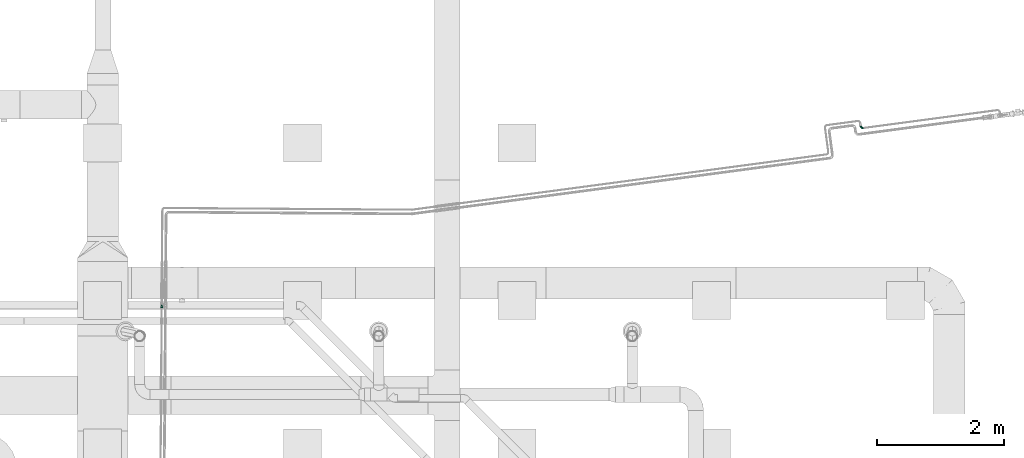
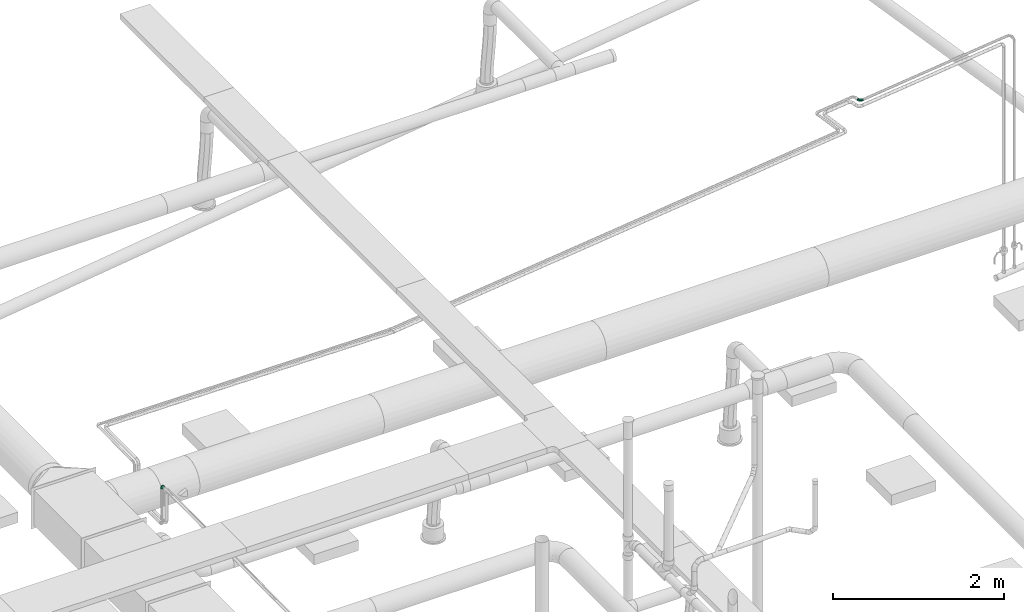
# One storey, part 199 of 374: 2 flow segments.
"""IFC2X3 building model written with IfcOpenShell, lengths in metres."""

import ifcopenshell
import ifcopenshell.guid

model = None  # the IFC model being written
_history = None  # IfcOwnerHistory: only IFC2X3 demands one
_inside = {}  # id of a spatial element -> (the spatial element, [elements in it])
_under = {}  # id of a project, library or spatial element -> (it, [spatial elements below it])
_declared = {}  # id of a project -> (the project, [libraries it declares])
_typed = {}  # id of a type object -> (the type object, [elements of that type])
_made_of = {}  # id of a material, layer set ... -> (it, [elements and type objects made of it])


def new_model(schema):
    """Start an empty IFC model of exactly this schema.

    Asked for "IFC4X3", IfcOpenShell would pick the latest addendum, in which some entities
    have other attributes; the version numbers below select the first issue.
    IFC2X3 requires an IfcOwnerHistory on every rooted entity: one is made here for all.
    """
    global model, _history
    if schema == "IFC4X3":
        model = ifcopenshell.file(schema_version=(4, 3, 0, 0))
    else:
        model = ifcopenshell.file(schema=schema)
    _inside.clear()
    _under.clear()
    _declared.clear()
    _typed.clear()
    _made_of.clear()
    _history = None
    if model.schema == "IFC2X3":
        org = make("IfcOrganization", Name="unknown")
        user = make(
            "IfcPersonAndOrganization",
            ThePerson=make("IfcPerson", FamilyName="unknown"),
            TheOrganization=org,
        )
        app = make(
            "IfcApplication",
            ApplicationDeveloper=org,
            Version="unknown",
            ApplicationFullName="unknown",
            ApplicationIdentifier="unknown",
        )
        _history = make(
            "IfcOwnerHistory",
            OwningUser=user,
            OwningApplication=app,
            ChangeAction="ADDED",
            CreationDate=0,
        )
    return model


def make(cls, **values):
    """One entity of the class cls with the attributes given. An attribute that is None is left unset."""
    return model.create_entity(
        cls, **{name: value for name, value in values.items() if value is not None}
    )


def rooted(cls, **values):
    """An entity with a GlobalId (a new one), such as an element, a storey or a relation."""
    return make(cls, GlobalId=ifcopenshell.guid.new(), OwnerHistory=_history, **values)


def si_unit(unit_type, name, prefix=None):
    """IfcSIUnit, for example si_unit("LENGTHUNIT", "METRE", prefix="MILLI")."""
    return make("IfcSIUnit", UnitType=unit_type, Prefix=prefix, Name=name)


def assignment(units):
    """IfcUnitAssignment: the units of a project."""
    return None if units is None else make("IfcUnitAssignment", Units=units)


def point(xyz):
    """IfcCartesianPoint."""
    return None if xyz is None else make("IfcCartesianPoint", Coordinates=xyz)


def direction(xyz):
    """IfcDirection."""
    return None if xyz is None else make("IfcDirection", DirectionRatios=xyz)


def frame(location, z_axis=None, x_axis=None):
    """IfcAxis2Placement3D, a coordinate frame: its origin and axes. An axis left out is left unset."""
    return make(
        "IfcAxis2Placement3D",
        Location=point(location),
        Axis=direction(z_axis),
        RefDirection=direction(x_axis),
    )


def origin():
    """The frame at (0, 0, 0) with its axes left unset."""
    return frame((0.0, 0.0, 0.0))


def place(relative_to, where):
    """IfcLocalPlacement: puts the frame where relative to a parent placement (None: the world)."""
    return make(
        "IfcLocalPlacement", PlacementRelTo=relative_to, RelativePlacement=where
    )


def context(
    kind, dimensions, precision=None, world=None, true_north=None, identifier=None
):
    """IfcGeometricRepresentationContext, for example the 3D "Model" context."""
    return make(
        "IfcGeometricRepresentationContext",
        ContextIdentifier=identifier,
        ContextType=kind,
        CoordinateSpaceDimension=dimensions,
        Precision=precision,
        WorldCoordinateSystem=world,
        TrueNorth=true_north,
    )


def subcontext(parent, identifier, kind, view, scale=None):
    """IfcGeometricRepresentationSubContext, for example "Body" below "Model"."""
    return make(
        "IfcGeometricRepresentationSubContext",
        ContextIdentifier=identifier,
        ContextType=kind,
        ParentContext=parent,
        TargetScale=scale,
        TargetView=view,
    )


def project(units=None, contexts=None):
    """IfcProject with its units and contexts."""
    return rooted(
        "IfcProject",
        Name="project",
        RepresentationContexts=contexts,
        UnitsInContext=assignment(units),
    )


def spatial(cls, under=None, at=None, **own):
    """A site, building, storey or space (cls), placed at a placement, below another one or the project."""
    s = rooted(cls, ObjectPlacement=at, **own)
    if under is not None:
        _under.setdefault(under.id(), (under, []))[1].append(s)
    return s


def faces_of(points, faces, orient=None, outer=None):
    """IfcFace entities. A face is a list of loops; a loop is a list of indices into points, from 0.

    orient and outer hold one flag for each loop. By default every Orientation is true, the
    first loop of a face is its IfcFaceOuterBound and the others are IfcFaceBound.
    """
    made = []
    for i, loops in enumerate(faces):
        bounds = []
        for j, loop in enumerate(loops):
            is_outer = j == 0 if outer is None else outer[i][j]
            bounds.append(
                make(
                    "IfcFaceOuterBound" if is_outer else "IfcFaceBound",
                    Bound=make("IfcPolyLoop", Polygon=[points[k] for k in loop]),
                    Orientation=True if orient is None else orient[i][j],
                )
            )
        made.append(make("IfcFace", Bounds=bounds))
    return made


def open_shell(faces, orient=None, outer=None):
    """The faces of one IfcOpenShell. surface_model builds it on its shared points."""
    return ("IfcOpenShell", faces, orient, outer)


def surface_model(cls, points, shells):
    """IfcFaceBasedSurfaceModel or IfcShellBasedSurfaceModel (cls): surfaces that need not close."""
    shared = [point(p) for p in points]
    made = [make(c, CfsFaces=faces_of(shared, fs, o, b)) for c, fs, o, b in shells]
    if cls == "IfcFaceBasedSurfaceModel":
        return make(cls, FbsmFaces=made)
    return make(cls, SbsmBoundary=made)


def shape(context_of_items, identifier, shape_type, items):
    """IfcShapeRepresentation: the items that make up one representation, for example the "Body"."""
    return make(
        "IfcShapeRepresentation",
        ContextOfItems=context_of_items,
        RepresentationIdentifier=identifier,
        RepresentationType=shape_type,
        Items=items,
    )


def source(mapping_origin, context_of_items, identifier, shape_type, items):
    """IfcRepresentationMap: a shape defined once, which mapped items show again and again."""
    return make(
        "IfcRepresentationMap",
        MappingOrigin=mapping_origin,
        MappedRepresentation=shape(context_of_items, identifier, shape_type, items),
    )


def transform(
    local_origin,
    x_axis=None,
    y_axis=None,
    z_axis=None,
    scale=None,
    scale2=None,
    scale3=None,
    uniform=True,
):
    """IfcCartesianTransformationOperator3D, or its non-uniform kind. x_axis, y_axis, z_axis: its Axis1, 2, 3."""
    if uniform:
        return make(
            "IfcCartesianTransformationOperator3D",
            Axis1=direction(x_axis),
            Axis2=direction(y_axis),
            LocalOrigin=point(local_origin),
            Scale=scale,
            Axis3=direction(z_axis),
        )
    return make(
        "IfcCartesianTransformationOperator3DnonUniform",
        Axis1=direction(x_axis),
        Axis2=direction(y_axis),
        LocalOrigin=point(local_origin),
        Scale=scale,
        Axis3=direction(z_axis),
        Scale2=scale2,
        Scale3=scale3,
    )


def mapped(mapping_source, mapping_target):
    """IfcMappedItem: shows the shape of a source again, moved by a transform."""
    return make(
        "IfcMappedItem", MappingSource=mapping_source, MappingTarget=mapping_target
    )


def made_of(thing, what):
    """Note that an element or type object is made of a material, layer set ...; save() writes the relation."""
    if what is not None:
        _made_of.setdefault(what.id(), (what, []))[1].append(thing)
    return thing


def element(
    cls,
    number,
    at=None,
    inside=None,
    cuts=None,
    type_object=None,
    material=None,
    context=None,
    identifier="Body",
    shape_type=None,
    held_by="IfcProductDefinitionShape",
    body=None,
    shapes=None,
    **own,
):
    """One element of the class cls, such as IfcWall. Its Tag is "e" and its number.

    at: its placement. inside: the storey or other place that contains it. cuts: it is an
    opening in that element (IfcRelVoidsElement). A single representation is given by context,
    identifier, shape_type and body (its items); several are given by shapes. held_by: the class
    of the entity that holds the representations. save() writes the other relations.
    """
    e = rooted(cls, Tag="e%d" % number, ObjectPlacement=at, **own)
    if body is not None:
        shapes = [shape(context, identifier, shape_type, body)]
    if shapes is not None:
        e.Representation = make(held_by, Representations=shapes)
    if inside is not None:
        _inside.setdefault(inside.id(), (inside, []))[1].append(e)
    if cuts is not None:
        rooted(
            "IfcRelVoidsElement", RelatingBuildingElement=cuts, RelatedOpeningElement=e
        )
    if type_object is not None:
        _typed.setdefault(type_object.id(), (type_object, []))[1].append(e)
    return made_of(e, material)


def aggregate(whole, parts):
    """IfcRelAggregates: a whole, such as a stair, and the parts it consists of."""
    return rooted("IfcRelAggregates", RelatingObject=whole, RelatedObjects=parts)


def save(model, path):
    """Write the relations noted so far, then the file.

    IfcRelAggregates (storeys below a building ...), IfcRelContainedInSpatialStructure (elements
    in a storey), IfcRelDefinesByType, IfcRelAssociatesMaterial and IfcRelDeclares: one each for
    every whole, place, type object, material and project.
    """
    for whole, parts in _under.values():
        aggregate(whole, parts)
    for where, things in _inside.values():
        rooted(
            "IfcRelContainedInSpatialStructure",
            RelatedElements=things,
            RelatingStructure=where,
        )
    for kind, things in _typed.values():
        rooted("IfcRelDefinesByType", RelatedObjects=things, RelatingType=kind)
    for what, things in _made_of.values():
        rooted("IfcRelAssociatesMaterial", RelatedObjects=things, RelatingMaterial=what)
    for by, libraries in _declared.values():
        rooted("IfcRelDeclares", RelatingContext=by, RelatedDefinitions=libraries)
    model.write(path)


model = new_model("IFC2X3")

# Units and contexts
model_context = context("Model", 3, precision=1e-05, world=origin(), true_north=direction((-0.4480736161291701, 0.8939966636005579)))
body_context = subcontext(model_context, "Body", "Model", "MODEL_VIEW")
ifc_project = project(units=[si_unit("LENGTHUNIT", "METRE"), si_unit("AREAUNIT", "SQUARE_METRE"), si_unit("VOLUMEUNIT", "CUBIC_METRE"), si_unit("PLANEANGLEUNIT", "RADIAN"), si_unit("THERMODYNAMICTEMPERATUREUNIT", "KELVIN"), si_unit("MASSUNIT", "GRAM", prefix="KILO"), si_unit("TIMEUNIT", "SECOND")], contexts=[model_context])

# Site, building, storey
site_placement = place(None, origin())
site = spatial("IfcSite", under=ifc_project, at=site_placement, Name="Site 1", CompositionType="ELEMENT")
building_placement = place(site_placement, origin())
building = spatial("IfcBuilding", under=site, at=building_placement, Name="Undefined", CompositionType="ELEMENT")
storey_placement = place(building_placement, origin())
storey = spatial("IfcBuildingStorey", under=building, at=storey_placement, Name="Rez de chauss\x8ee", CompositionType="ELEMENT", Elevation=0.0)

# Flow segments
shared_shape = source(origin(), body_context, "Body", "SurfaceModel", [
    surface_model("IfcFaceBasedSurfaceModel", [(0.014318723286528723, 0.0, 8.8817842e-16), (0.01424378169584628, 0.004398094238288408, 0.0), (7.494159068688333e-05, 0.004398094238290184, 0.0), (0.0, 0.0, 0.0), (-0.013611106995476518, 0.004872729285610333, -0.0036363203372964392), (-0.01383082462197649, 0.000479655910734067, -0.003674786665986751), (-0.02588168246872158, 0.005789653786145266, -0.010661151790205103), (-0.026231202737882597, 0.0014062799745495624, -0.010773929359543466), (-0.03590056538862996, 0.007086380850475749, -0.02059576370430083), (-0.036356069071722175, 0.0027167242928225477, -0.020813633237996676), (-0.04298498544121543, 0.008674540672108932, -0.03276312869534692), (-0.0435154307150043, 0.0043216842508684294, -0.03310970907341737), (-0.046652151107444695, 0.010445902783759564, -0.04633406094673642), (-0.04722138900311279, 0.006111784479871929, -0.04682419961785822), (0.01402406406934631, 0.008643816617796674, -0.00112889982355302), (0.0002946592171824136, 0.00864381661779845, -0.001128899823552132), (-0.01296692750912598, 0.009103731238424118, -0.00465244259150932), (-0.02485694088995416, 0.009992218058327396, -0.011459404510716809), (-0.03456509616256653, 0.011248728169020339, -0.021085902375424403), (-0.041429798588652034, 0.012787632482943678, -0.03287590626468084), (-0.04498323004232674, 0.014504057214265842, -0.04602594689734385), (0.013674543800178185, 0.012447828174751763, -0.0033097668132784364), (0.0006441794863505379, 0.012447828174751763, -0.003309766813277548), (-0.011942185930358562, 0.012884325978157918, -0.006653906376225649), (-0.023226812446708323, 0.013727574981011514, -0.01311428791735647), (-0.032440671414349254, 0.014920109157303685, -0.022250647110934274), (-0.038955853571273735, 0.016380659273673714, -0.03344035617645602), (-0.04232836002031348, 0.01800969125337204, -0.04592085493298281), (0.013219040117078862, 0.01555089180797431, -0.006393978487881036), (0.0010996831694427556, 0.015550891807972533, -0.006393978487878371), (-0.010606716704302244, 0.015956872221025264, -0.009504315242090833), (-0.021102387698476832, 0.016741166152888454, -0.01551302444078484), (-0.029672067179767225, 0.01785032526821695, -0.024010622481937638), (-0.035731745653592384, 0.01920876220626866, -0.03441801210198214), (-0.038868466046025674, 0.02072390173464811, -0.04602594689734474), (0.012688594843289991, 0.01774153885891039, -0.010171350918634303), (0.0016301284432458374, 0.01774153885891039, -0.010171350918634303), (-0.009051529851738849, 0.018111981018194, -0.013009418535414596), (-0.01862844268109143, 0.01882762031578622, -0.018492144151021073), (-0.026447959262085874, 0.019839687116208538, -0.02624588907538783), (-0.03197719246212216, 0.021079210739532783, -0.03574224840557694), (-0.034839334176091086, 0.022461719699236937, -0.04633406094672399), (0.012119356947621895, 0.018870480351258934, -0.014384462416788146), (0.0021993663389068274, 0.018870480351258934, -0.014384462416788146), (-0.007382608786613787, 0.019202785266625, -0.016930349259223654), (-0.015973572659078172, 0.019844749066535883, -0.021848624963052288), (-0.022988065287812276, 0.020752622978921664, -0.02880411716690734), (-0.027948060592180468, 0.021864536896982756, -0.03732282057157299), (-0.030515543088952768, 0.023104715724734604, -0.04682419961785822), (0.0115501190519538, 0.018860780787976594, -0.01874619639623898), (0.002768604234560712, 0.018860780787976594, -0.01874619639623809), (-0.005713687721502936, 0.019154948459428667, -0.020999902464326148), (-0.013318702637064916, 0.01972323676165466, -0.025353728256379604), (-0.019528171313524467, 0.02052691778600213, -0.03151096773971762), (-0.023918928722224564, 0.021511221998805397, -0.03905201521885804), (-0.02619175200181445, 0.02260907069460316, -0.04746296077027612), (0.011019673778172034, 0.01771310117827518, -0.022959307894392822), (0.0032990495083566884, 0.01771310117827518, -0.022959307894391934), (-0.004158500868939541, 0.017971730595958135, -0.0249407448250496), (-0.010844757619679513, 0.018471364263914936, -0.028768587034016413), (-0.01630406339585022, 0.019177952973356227, -0.03418197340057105), (-0.020164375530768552, 0.0200433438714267, -0.04081199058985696), (-0.022162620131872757, 0.02100856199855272, -0.04820681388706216), (0.010564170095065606, 0.015505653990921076, -0.02673668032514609), (0.0037545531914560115, 0.015505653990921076, -0.0267366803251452), (-0.002823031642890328, 0.01573376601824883, -0.028484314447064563), (-0.008720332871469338, 0.016174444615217, -0.03186048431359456), (-0.01353545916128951, 0.016797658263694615, -0.036635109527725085), (-0.016940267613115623, 0.017560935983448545, -0.042482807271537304), (-0.018702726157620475, 0.01841226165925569, -0.04900506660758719), (0.010214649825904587, 0.012388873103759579, -0.029820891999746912), (0.004104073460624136, 0.012388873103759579, -0.029820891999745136), (-0.0017982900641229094, 0.012593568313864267, -0.03138912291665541), (-0.007090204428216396, 0.012989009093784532, -0.03441871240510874), (-0.011411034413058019, 0.013548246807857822, -0.0387031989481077), (-0.014466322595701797, 0.014233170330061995, -0.04395060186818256), (-0.01604785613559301, 0.014997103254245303, -0.0498033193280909), (0.009994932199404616, 0.008575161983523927, -0.03200175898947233), (0.004323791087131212, 0.00857516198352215, -0.03200175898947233), (-0.001154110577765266, 0.00876513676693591, -0.03345721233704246), (-0.006065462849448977, 0.009132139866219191, -0.03626893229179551), (-0.0100755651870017, 0.009651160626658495, -0.04024530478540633), (-0.012911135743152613, 0.010286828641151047, -0.04511534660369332), (-0.014378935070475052, 0.010995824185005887, -0.05054717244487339), (0.009919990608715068, 0.004324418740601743, -0.03313065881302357), (0.004398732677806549, 0.004324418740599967, -0.03313065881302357), (-0.0009343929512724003, 0.004509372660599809, -0.03454764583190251), (-0.005715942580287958, 0.004866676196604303, -0.03728505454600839), (-0.009620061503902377, 0.005371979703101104, -0.041156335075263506), (-0.012380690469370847, 0.005990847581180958, -0.04589766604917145), (-0.013809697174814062, 0.006681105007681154, -0.05118593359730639), (0.009994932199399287, -7.367549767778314e-05, -0.033130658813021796), (0.004323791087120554, -7.367549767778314e-05, -0.033130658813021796), (-0.0011541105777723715, 0.00011629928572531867, -0.03458611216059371), (-0.0011541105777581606, 0.0001162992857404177, -0.03458611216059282), (-0.0060654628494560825, 0.00048330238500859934, -0.03739783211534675), (-0.010075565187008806, 0.0010023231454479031, -0.04137420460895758), (-0.012911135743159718, 0.001637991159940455, -0.04624424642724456), (-0.014378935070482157, 0.002346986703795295, -0.05167607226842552), (0.010214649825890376, -0.004319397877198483, -0.03200175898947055), (0.00410407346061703, -0.0043193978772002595, -0.03200175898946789), (-0.0017982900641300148, -0.004114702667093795, -0.03356998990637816), (-0.007090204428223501, -0.0037192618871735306, -0.036599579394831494), (-0.011411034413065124, -0.00316002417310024, -0.04088406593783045), (-0.014466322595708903, -0.002475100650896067, -0.04613146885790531), (-0.016047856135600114, -0.0017111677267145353, -0.05198418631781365), (0.0105641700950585, -0.008123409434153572, -0.029820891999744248), (0.003754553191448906, -0.008123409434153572, -0.02982089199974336), (-0.0028230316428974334, -0.007895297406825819, -0.03156852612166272), (-0.008720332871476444, -0.007454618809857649, -0.03494469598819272), (-0.013535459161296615, -0.006831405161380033, -0.03971932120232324), (-0.016940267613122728, -0.006068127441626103, -0.04556701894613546), (-0.01870272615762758, -0.005216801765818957, -0.05208927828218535), (0.011019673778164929, -0.011226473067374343, -0.026736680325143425), (0.003299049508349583, -0.011226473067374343, -0.026736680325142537), (-0.004158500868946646, -0.010967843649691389, -0.028718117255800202), (-0.010844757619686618, -0.010468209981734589, -0.032545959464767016), (-0.016304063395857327, -0.009761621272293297, -0.037959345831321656), (-0.020164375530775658, -0.008896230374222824, -0.044589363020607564), (-0.022162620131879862, -0.007931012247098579, -0.051984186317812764), (0.011550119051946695, -0.013417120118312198, -0.02295930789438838), (0.0027686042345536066, -0.013417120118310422, -0.022959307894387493), (-0.005713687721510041, -0.013122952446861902, -0.02521301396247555), (-0.013318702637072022, -0.012554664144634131, -0.029566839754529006), (-0.019528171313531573, -0.011750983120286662, -0.035724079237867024), (-0.02391892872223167, -0.010766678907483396, -0.04326512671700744), (-0.026191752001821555, -0.009668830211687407, -0.05167607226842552), (0.01211935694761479, -0.014546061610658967, -0.018746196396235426), (0.002199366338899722, -0.014546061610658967, -0.018746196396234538), (-0.007382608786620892, -0.0142137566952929, -0.021292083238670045), (-0.015973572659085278, -0.013571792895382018, -0.02621035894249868), (-0.02298806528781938, -0.012663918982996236, -0.03316585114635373), (-0.027948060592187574, -0.011552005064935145, -0.04168455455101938), (-0.030515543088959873, -0.010311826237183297, -0.05118593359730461), (0.012688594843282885, -0.014536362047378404, -0.014384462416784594), (0.001630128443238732, -0.014536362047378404, -0.014384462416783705), (-0.009051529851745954, -0.014165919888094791, -0.017222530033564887), (-0.018628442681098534, -0.013450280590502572, -0.022705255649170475), (-0.02644795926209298, -0.012438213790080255, -0.03045900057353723), (-0.03197719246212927, -0.011198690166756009, -0.03995535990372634), (-0.03483933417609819, -0.009816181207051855, -0.05054717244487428), (0.013219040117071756, -0.013388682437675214, -0.010171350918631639), (0.0010996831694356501, -0.01338868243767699, -0.010171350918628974), (-0.010606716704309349, -0.01298270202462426, -0.013281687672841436), (-0.021102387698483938, -0.01219840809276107, -0.019290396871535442), (-0.02967206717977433, -0.011089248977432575, -0.02778799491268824), (-0.03573174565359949, -0.009730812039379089, -0.038195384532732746), (-0.03886846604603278, -0.008215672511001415, -0.04980331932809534), (0.01367454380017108, -0.011181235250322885, -0.006393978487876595), (0.0006441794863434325, -0.011181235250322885, -0.006393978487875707), (-0.011942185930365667, -0.01074473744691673, -0.009738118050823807), (-0.023226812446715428, -0.009901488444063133, -0.01619849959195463), (-0.03244067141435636, -0.008708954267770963, -0.02533485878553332), (-0.03895585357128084, -0.007248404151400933, -0.03652456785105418), (-0.04232836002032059, -0.005619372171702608, -0.04900506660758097), (0.014024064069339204, -0.008064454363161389, -0.003309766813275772), (0.0002946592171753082, -0.008064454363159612, -0.0033097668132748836), (-0.012966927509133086, -0.0076045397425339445, -0.006833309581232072), (-0.024856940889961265, -0.0067160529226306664, -0.01364027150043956), (-0.03456509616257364, -0.005459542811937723, -0.023266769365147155), (-0.04142979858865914, -0.003920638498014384, -0.03505677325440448), (-0.044983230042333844, -0.00220421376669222, -0.0482068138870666), (0.014243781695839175, -0.004250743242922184, -0.0011288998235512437), (7.494159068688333e-05, -0.004250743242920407, -0.0011288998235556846), (-0.013611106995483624, -0.0037761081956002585, -0.004765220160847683), (-0.025881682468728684, -0.002859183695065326, -0.011790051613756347), (-0.03590056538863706, -0.001562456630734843, -0.021724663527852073), (-0.04298498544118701, 2.570319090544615e-05, -0.03389202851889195), (-0.0466521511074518, 0.0017970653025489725, -0.047462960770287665)], [open_shell([[[0, 1, 2, 3]], [[3, 2, 4, 5]], [[5, 4, 6, 7]], [[7, 6, 8, 9]], [[9, 8, 10, 11]], [[11, 10, 12, 13]], [[1, 14, 15, 2]], [[2, 15, 16, 4]], [[4, 16, 17, 6]], [[6, 17, 18, 8]], [[8, 18, 19, 10]], [[10, 19, 20, 12]], [[14, 21, 22, 15]], [[15, 22, 23, 16]], [[16, 23, 24, 17]], [[17, 24, 25, 18]], [[18, 25, 26, 19]], [[19, 26, 27, 20]], [[21, 28, 29, 22]], [[22, 29, 30, 23]], [[23, 30, 31, 24]], [[24, 31, 32, 25]], [[25, 32, 33, 26]], [[26, 33, 34, 27]], [[28, 35, 36, 29]], [[29, 36, 37, 30]], [[30, 37, 38, 31]], [[31, 38, 39, 32]], [[32, 39, 40, 33]], [[33, 40, 41, 34]], [[35, 42, 43, 36]], [[36, 43, 44, 37]], [[37, 44, 45, 38]], [[38, 45, 46, 39]], [[39, 46, 47, 40]], [[40, 47, 48, 41]], [[42, 49, 50, 43]], [[43, 50, 51, 44]], [[44, 51, 52, 45]], [[45, 52, 53, 46]], [[46, 53, 54, 47]], [[47, 54, 55, 48]], [[49, 56, 57, 50]], [[50, 57, 58, 51]], [[51, 58, 59, 52]], [[52, 59, 60, 53]], [[53, 60, 61, 54]], [[54, 61, 62, 55]], [[56, 63, 64, 57]], [[57, 64, 65, 58]], [[58, 65, 66, 59]], [[59, 66, 67, 60]], [[60, 67, 68, 61]], [[61, 68, 69, 62]], [[63, 70, 71, 64]], [[64, 71, 72, 65]], [[65, 72, 73, 66]], [[66, 73, 74, 67]], [[67, 74, 75, 68]], [[68, 75, 76, 69]], [[70, 77, 78, 71]], [[71, 78, 79, 72]], [[72, 79, 80, 73]], [[73, 80, 81, 74]], [[74, 81, 82, 75]], [[75, 82, 83, 76]], [[77, 84, 85, 78]], [[78, 85, 86, 79]], [[79, 86, 87, 80]], [[80, 87, 88, 81]], [[81, 88, 89, 82]], [[82, 89, 90, 83]], [[84, 91, 92, 85]], [[85, 92, 93, 86]], [[86, 94, 95, 87]], [[87, 95, 96, 88]], [[88, 96, 97, 89]], [[89, 97, 98, 90]], [[91, 99, 100, 92]], [[92, 100, 101, 93]], [[94, 101, 102, 95]], [[95, 102, 103, 96]], [[96, 103, 104, 97]], [[97, 104, 105, 98]], [[99, 106, 107, 100]], [[100, 107, 108, 101]], [[101, 108, 109, 102]], [[102, 109, 110, 103]], [[103, 110, 111, 104]], [[104, 111, 112, 105]], [[106, 113, 114, 107]], [[107, 114, 115, 108]], [[108, 115, 116, 109]], [[109, 116, 117, 110]], [[110, 117, 118, 111]], [[111, 118, 119, 112]], [[113, 120, 121, 114]], [[114, 121, 122, 115]], [[115, 122, 123, 116]], [[116, 123, 124, 117]], [[117, 124, 125, 118]], [[118, 125, 126, 119]], [[120, 127, 128, 121]], [[121, 128, 129, 122]], [[122, 129, 130, 123]], [[123, 130, 131, 124]], [[124, 131, 132, 125]], [[125, 132, 133, 126]], [[127, 134, 135, 128]], [[128, 135, 136, 129]], [[129, 136, 137, 130]], [[130, 137, 138, 131]], [[131, 138, 139, 132]], [[132, 139, 140, 133]], [[134, 141, 142, 135]], [[135, 142, 143, 136]], [[136, 143, 144, 137]], [[137, 144, 145, 138]], [[138, 145, 146, 139]], [[139, 146, 147, 140]], [[141, 148, 149, 142]], [[142, 149, 150, 143]], [[143, 150, 151, 144]], [[144, 151, 152, 145]], [[145, 152, 153, 146]], [[146, 153, 154, 147]], [[148, 155, 156, 149]], [[149, 156, 157, 150]], [[150, 157, 158, 151]], [[151, 158, 159, 152]], [[152, 159, 160, 153]], [[153, 160, 161, 154]], [[155, 162, 163, 156]], [[156, 163, 164, 157]], [[157, 164, 165, 158]], [[158, 165, 166, 159]], [[159, 166, 167, 160]], [[160, 167, 168, 161]], [[162, 0, 3, 163]], [[163, 3, 5, 164]], [[164, 5, 7, 165]], [[165, 7, 9, 166]], [[166, 9, 11, 167]], [[167, 11, 13, 168]]])]),
])
flow_segment_1_placement = place(storey_placement, origin())
element("IfcFlowSegment", 1, at=flow_segment_1_placement, inside=storey, Name="Tube coudé", ObjectType="Tube coudé", context=body_context, shape_type="MappedRepresentation", body=[
    mapped(shared_shape, transform((63.92206323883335, 20.144437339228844, 4.0051404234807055), x_axis=(0.999998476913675, 0.0017453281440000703, 0.0), y_axis=(-0.00022589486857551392, 0.1294281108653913, 0.9915887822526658), z_axis=(0.0017306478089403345, -0.9915872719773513, 0.12942830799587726))),
])
flow_segment_2_placement = place(storey_placement, origin())
element("IfcFlowSegment", 2, at=flow_segment_2_placement, inside=storey, Name="Tube coudé", ObjectType="Tube coudé", context=body_context, shape_type="MappedRepresentation", body=[
    mapped(shared_shape, transform((52.86288686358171, 17.375860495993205, 4.050506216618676), x_axis=(0.0009112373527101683, 0.13052301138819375, -0.9914448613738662), y_axis=(-0.9924604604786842, -0.12139536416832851, -0.016893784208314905), z_axis=(-0.12256183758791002, 0.9839852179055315, 0.12942830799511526))),
])

save(model, "model.ifc")
